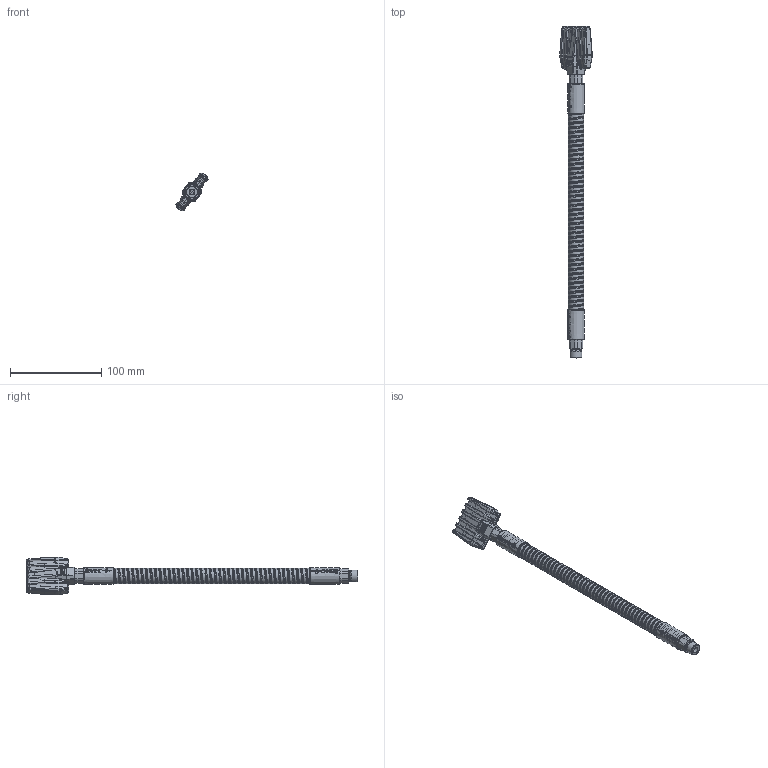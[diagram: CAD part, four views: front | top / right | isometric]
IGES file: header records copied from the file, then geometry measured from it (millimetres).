
Start section: SolidWorks IGES file using analytic representation for surfaces
Global section: file name: \\silv-file01\public$\SILVENT AB\ENGINEERING\Drawings\ÖVRIGT\IGES\9002W-S+-300.IGS; native system: SolidWorks 2016; preprocessor: SolidWorks 2016; author: a.olander; date: 190910.073939; units: millimetre
Bounding box: 35.19 x 363 x 41.31 mm (x, y, z)
Surface area: 36652.8 mm2 (no closed solid volume)
Topology: 0 solids, 0 shells, 716 faces, 10137 edges, 10137 vertices
Faces by surface type: bspline 384, revolution 332
